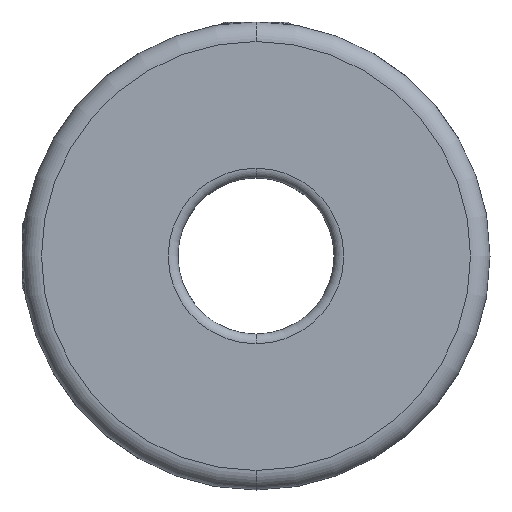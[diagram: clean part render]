
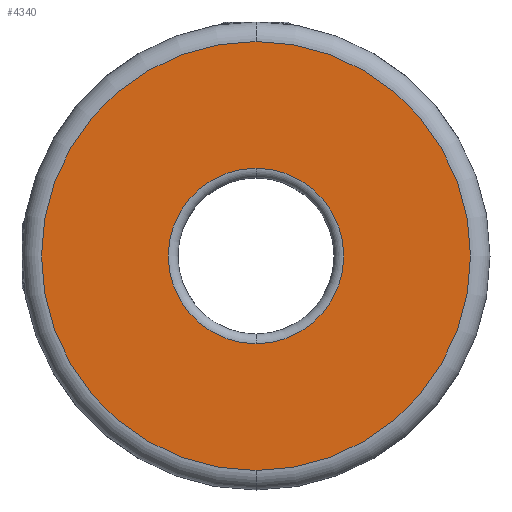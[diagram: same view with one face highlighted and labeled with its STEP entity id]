
A CAD part, left-side view. The second image highlights one B-rep face of the part: STEP entity #4340.
In plain terms, the highlighted planar face has unit normal (-1, 0, 0).
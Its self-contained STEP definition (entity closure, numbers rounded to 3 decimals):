
#189 = EDGE_LOOP ( 'NONE', ( #394, #2222 ) ) ;
#394 = ORIENTED_EDGE ( 'NONE', *, *, #3430, .T. ) ;
#436 = CIRCLE ( 'NONE', #1640, 11. ) ;
#525 = DIRECTION ( 'NONE',  ( -1., 0., 0. ) ) ;
#710 = DIRECTION ( 'NONE',  ( 1., 0., 0. ) ) ;
#876 = AXIS2_PLACEMENT_3D ( 'NONE', #4408, #1975, #4834 ) ;
#888 = VERTEX_POINT ( 'NONE', #3427 ) ;
#1115 = EDGE_LOOP ( 'NONE', ( #1421, #3436 ) ) ;
#1421 = ORIENTED_EDGE ( 'NONE', *, *, #3123, .T. ) ;
#1460 = FACE_OUTER_BOUND ( 'NONE', #1115, .T. ) ;
#1582 = FACE_BOUND ( 'NONE', #189, .T. ) ;
#1640 = AXIS2_PLACEMENT_3D ( 'NONE', #2881, #525, #3293 ) ;
#1667 = VERTEX_POINT ( 'NONE', #3329 ) ;
#1675 = VERTEX_POINT ( 'NONE', #2559 ) ;
#1830 = DIRECTION ( 'NONE',  ( 0., 0., -1. ) ) ;
#1975 = DIRECTION ( 'NONE',  ( -1., 0., 0. ) ) ;
#2222 = ORIENTED_EDGE ( 'NONE', *, *, #3250, .T. ) ;
#2270 = DIRECTION ( 'NONE',  ( 1., 0., 0. ) ) ;
#2559 = CARTESIAN_POINT ( 'NONE',  ( 0., 0., -4.5 ) ) ;
#2588 = CIRCLE ( 'NONE', #3735, 4.5 ) ;
#2623 = PLANE ( 'NONE',  #4243 ) ;
#2680 = VERTEX_POINT ( 'NONE', #3597 ) ;
#2881 = CARTESIAN_POINT ( 'NONE',  ( 0., 0., 0. ) ) ;
#3065 = CARTESIAN_POINT ( 'NONE',  ( 0., 0., 0. ) ) ;
#3123 = EDGE_CURVE ( 'NONE', #888, #2680, #436, .T. ) ;
#3250 = EDGE_CURVE ( 'NONE', #1667, #1675, #5158, .T. ) ;
#3293 = DIRECTION ( 'NONE',  ( 0., 0., -1. ) ) ;
#3329 = CARTESIAN_POINT ( 'NONE',  ( 0., 0., 4.5 ) ) ;
#3427 = CARTESIAN_POINT ( 'NONE',  ( 0., 0., -11. ) ) ;
#3430 = EDGE_CURVE ( 'NONE', #1675, #1667, #2588, .T. ) ;
#3436 = ORIENTED_EDGE ( 'NONE', *, *, #3512, .T. ) ;
#3507 = DIRECTION ( 'NONE',  ( 0., 0., -1. ) ) ;
#3512 = EDGE_CURVE ( 'NONE', #2680, #888, #4382, .T. ) ;
#3597 = CARTESIAN_POINT ( 'NONE',  ( 0., 0., 11. ) ) ;
#3735 = AXIS2_PLACEMENT_3D ( 'NONE', #3065, #710, #3507 ) ;
#4228 = CARTESIAN_POINT ( 'NONE',  ( 0., 0., 0. ) ) ;
#4243 = AXIS2_PLACEMENT_3D ( 'NONE', #4228, #4272, #1830 ) ;
#4272 = DIRECTION ( 'NONE',  ( 1., 0., 0. ) ) ;
#4287 = AXIS2_PLACEMENT_3D ( 'NONE', #4731, #2270, #5126 ) ;
#4340 = ADVANCED_FACE ( 'NONE', ( #1582, #1460 ), #2623, .F. ) ;
#4382 = CIRCLE ( 'NONE', #876, 11. ) ;
#4408 = CARTESIAN_POINT ( 'NONE',  ( 0., 0., 0. ) ) ;
#4731 = CARTESIAN_POINT ( 'NONE',  ( 0., 0., 0. ) ) ;
#4834 = DIRECTION ( 'NONE',  ( 0., 0., -1. ) ) ;
#5126 = DIRECTION ( 'NONE',  ( 0., 0., -1. ) ) ;
#5158 = CIRCLE ( 'NONE', #4287, 4.5 ) ;
